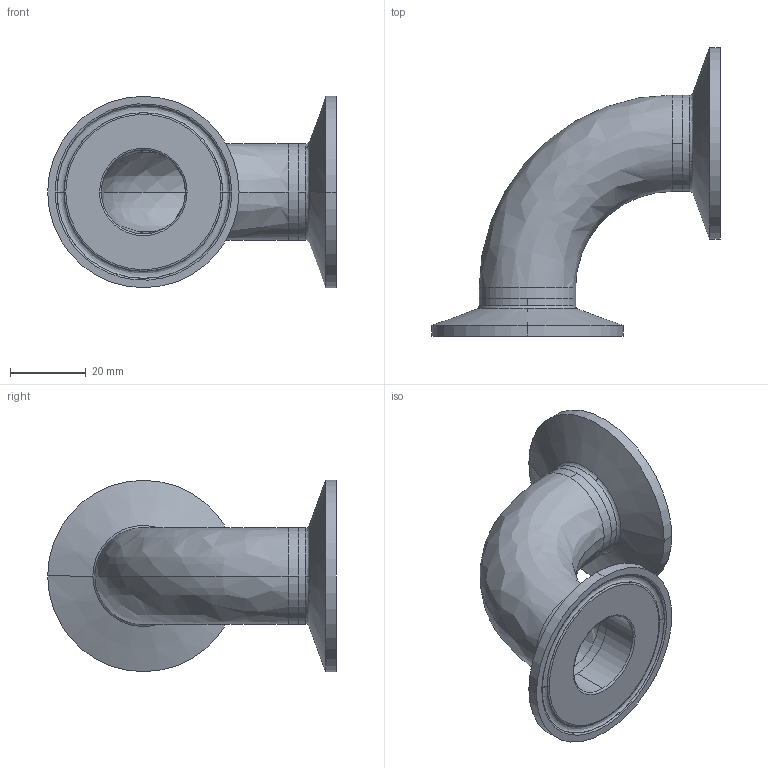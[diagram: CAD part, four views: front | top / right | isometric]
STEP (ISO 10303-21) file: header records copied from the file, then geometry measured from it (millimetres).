
FILE_DESCRIPTION (( 'STEP AP214' ), '1' );
FILE_NAME ('TEG2C6L1.0-...STEP', '2016-05-22T10:40:50', ( 'eran' ), ( '' ), 'SwSTEP 2.0', 'SolidWorks 2016', '' );
FILE_SCHEMA (( 'AUTOMOTIVE_DESIGN' ));
Length unit declared in the file: millimetre
Products named in the file (1): TEG2C6L1.0-..
Bounding box: 76 x 76 x 50.39 mm (x, y, z)
Volume: 24636.5 mm3; surface area: 19429.8 mm2
Topology: 3 solids, 3 shells, 64 faces, 160 edges, 104 vertices
Faces by surface type: bspline 24, cylinder 20, cone 12, plane 8
Entity records: 3080 total; most frequent: CARTESIAN_POINT 1493, DIRECTION 346, ORIENTED_EDGE 320, EDGE_CURVE 160, AXIS2_PLACEMENT_3D 157, CIRCLE 116, VERTEX_POINT 104, EDGE_LOOP 72
